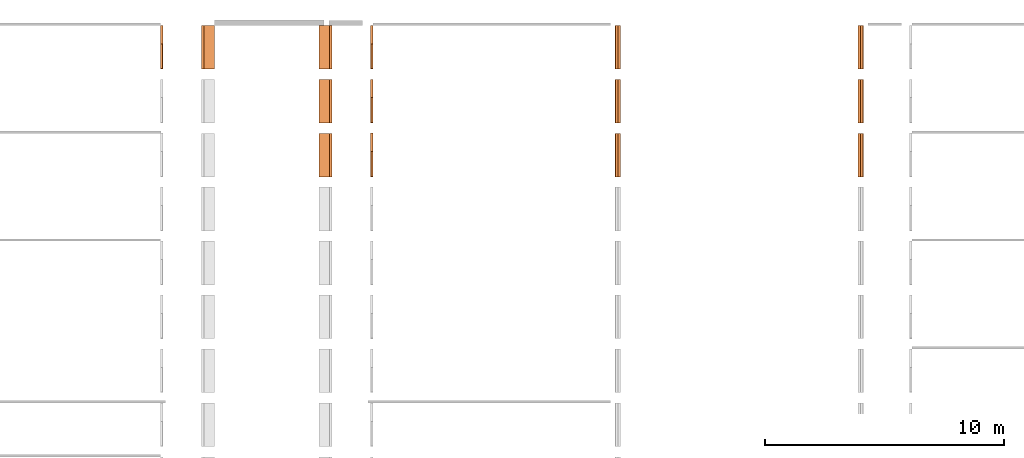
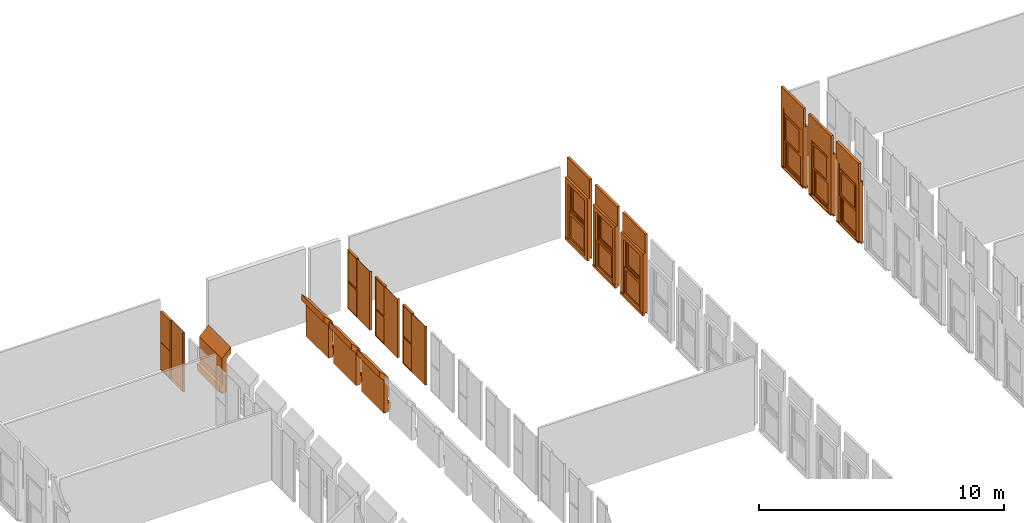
# One storey, part 12 of 13: 14 proxies.
"""IFC2X3 building model written with IfcOpenShell, lengths in millimetres."""

from ifc_helpers import new_model, entity, si_unit, converted_unit, derived_unit, direction, frame, frame_2d, origin, origin_2d_with_axis, place, context, subcontext, project, spatial, polyline, rectangle, outline, extrude, source, transform, mapped, material, material_list, type_object, type_shapes, element, save


model = new_model("IFC2X3")

# Units and contexts
model_context = context("Model", 3, precision=0.01, world=origin(), true_north=direction((6.12303176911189e-17, 1.0)))
body_context = subcontext(model_context, "Body", "Model", "MODEL_VIEW")
ifc_project = project(units=[si_unit("LENGTHUNIT", "METRE", prefix="MILLI"), si_unit("AREAUNIT", "SQUARE_METRE"), si_unit("VOLUMEUNIT", "CUBIC_METRE"), converted_unit("PLANEANGLEUNIT", "DEGREE", entity("IfcRatioMeasure", 0.0174532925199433), si_unit("PLANEANGLEUNIT", "RADIAN"), dimensions=[0, 0, 0, 0, 0, 0, 0]), si_unit("MASSUNIT", "GRAM", prefix="KILO"), derived_unit("MASSDENSITYUNIT", [(si_unit("MASSUNIT", "GRAM", prefix="KILO"), 1), (si_unit("LENGTHUNIT", "METRE"), -3)]), derived_unit("MOMENTOFINERTIAUNIT", [(si_unit("LENGTHUNIT", "METRE"), 4)]), si_unit("TIMEUNIT", "SECOND"), si_unit("FREQUENCYUNIT", "HERTZ"), si_unit("THERMODYNAMICTEMPERATUREUNIT", "DEGREE_CELSIUS"), derived_unit("THERMALTRANSMITTANCEUNIT", [(si_unit("MASSUNIT", "GRAM", prefix="KILO"), 1), (si_unit("THERMODYNAMICTEMPERATUREUNIT", "KELVIN"), -1), (si_unit("TIMEUNIT", "SECOND"), -3)]), derived_unit("VOLUMETRICFLOWRATEUNIT", [(si_unit("LENGTHUNIT", "METRE"), 3), (si_unit("TIMEUNIT", "SECOND"), -1)]), si_unit("ELECTRICCURRENTUNIT", "AMPERE"), si_unit("ELECTRICVOLTAGEUNIT", "VOLT"), si_unit("POWERUNIT", "WATT"), si_unit("FORCEUNIT", "NEWTON", prefix="KILO"), si_unit("ILLUMINANCEUNIT", "LUX"), si_unit("LUMINOUSFLUXUNIT", "LUMEN"), si_unit("LUMINOUSINTENSITYUNIT", "CANDELA"), derived_unit("USERDEFINED", [(si_unit("MASSUNIT", "GRAM", prefix="KILO"), -1), (si_unit("LENGTHUNIT", "METRE"), -2), (si_unit("TIMEUNIT", "SECOND"), 3), (si_unit("LUMINOUSFLUXUNIT", "LUMEN"), 1)]), derived_unit("LINEARVELOCITYUNIT", [(si_unit("LENGTHUNIT", "METRE"), 1), (si_unit("TIMEUNIT", "SECOND"), -1)]), si_unit("PRESSUREUNIT", "PASCAL"), derived_unit("USERDEFINED", [(si_unit("LENGTHUNIT", "METRE"), -2), (si_unit("MASSUNIT", "GRAM", prefix="KILO"), 1), (si_unit("TIMEUNIT", "SECOND"), -2)]), derived_unit("LINEARFORCEUNIT", [(si_unit("MASSUNIT", "GRAM", prefix="KILO"), 1), (si_unit("LENGTHUNIT", "METRE"), 1), (si_unit("TIMEUNIT", "SECOND"), -2), (si_unit("LENGTHUNIT", "METRE"), -1)]), derived_unit("PLANARFORCEUNIT", [(si_unit("MASSUNIT", "GRAM", prefix="KILO"), 1), (si_unit("LENGTHUNIT", "METRE"), 1), (si_unit("TIMEUNIT", "SECOND"), -2), (si_unit("LENGTHUNIT", "METRE"), -2)])], contexts=[model_context])

# Site, building, storey
site_placement = place(None, frame((10627.5135316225, 21939.0796949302, 0.0)))
site = spatial("IfcSite", under=ifc_project, at=site_placement, Name="Default", CompositionType="ELEMENT")
building_placement = place(site_placement, origin())
building = spatial("IfcBuilding", under=site, at=building_placement, CompositionType="ELEMENT")
storey_placement = place(building_placement, frame((0.0, 0.0, 7320.0)))
storey = spatial("IfcBuildingStorey", under=building, at=storey_placement, Name="R+2", CompositionType="ELEMENT", Elevation=7320.0)

# Proxies
ifc_material_1 = material(Name="PVC, Flexible")
ifc_material_2 = material(Name="Glass")
ifc_material_list_1 = material_list([ifc_material_1, ifc_material_2])
building_element_proxy_type_1 = type_object("IfcBuildingElementProxyType", Name="FENETRE.dwg:Fenetre ext 296+95", PredefinedType="NOTDEFINED", material=ifc_material_1)
shared_shape_1 = source(origin(), body_context, "Body", "SweptSolid", [
    extrude(rectangle(XDim=1829.99999999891, YDim=112.500043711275, at=origin_2d_with_axis()), frame((-10.4189092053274, 56.2500218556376, 2960.0), z_axis=(0.0, 0.0, 1.0), x_axis=(-1.0, 0.0, 0.0)), (0.0, 0.0, 1.0), 949.999999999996),
    extrude(outline(polyline([(-68.5678005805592, -14.3879872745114), (-72.4883397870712, -33.9999574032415), (-67.5853472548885, -34.9800922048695), (-63.9024543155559, -16.5569155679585), (44.3087537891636, -16.5569155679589), (54.1101018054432, 32.4730097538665), (40.6268723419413, 35.1683804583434), (40.1368049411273, 32.7168841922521), (51.168538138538, 30.5115808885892), (42.1928709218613, -14.3879872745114), (-68.5678005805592, -14.3879872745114)])), frame((-925.418909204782, 66.917049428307, -47.5499763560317), z_axis=(-1.0, 0.0, 0.0), x_axis=(0.0, 0.980598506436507, -0.196026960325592)), (0.0, 0.0, -1.0), 1829.99999999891),
    extrude(outline(polyline([(-64.667066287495, -56.2500218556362), (66.1666874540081, -56.2500218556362), (66.1666874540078, 56.2500218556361), (-67.6663086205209, 56.2500218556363), (-64.667066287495, -56.2500218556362)])), frame((-925.418909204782, -56.2500218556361, -63.833312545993), z_axis=(1.0, 0.0, 0.0), x_axis=(0.0, 0.0, -1.0)), (0.0, 0.0, 1.0), 1829.99999999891),
    extrude(outline(polyline([(-55.5555555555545, 97.0007159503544), (-55.5555555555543, -5.85738417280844), (-55.5555555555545, -95.357341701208), (-45.5555555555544, -95.3573417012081), (-45.5555555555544, -105.357341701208), (174.444444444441, -105.357341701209), (174.444444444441, 106.642659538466), (-45.5555555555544, 106.642659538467), (-45.5555555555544, 97.0007159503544), (-55.5555555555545, 97.0007159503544)])), frame((849.025535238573, 5.85738417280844, 0.0), z_axis=(0.0, 0.0, -1.0), x_axis=(-1.0, 0.0, 0.0)), (0.0, 0.0, -1.0), 2960.0),
    extrude(rectangle(XDim=199.499957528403, YDim=1369.99999999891, at=origin_2d_with_axis()), frame((-10.4189092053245, 0.250021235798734, 2730.0), z_axis=(0.0, 0.0, 1.0), x_axis=(0.0, 1.0, 0.0)), (0.0, 0.0, 1.0), 230.000000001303),
    extrude(outline(polyline([(-97.0007159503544, -55.5555555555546), (5.85738417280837, -55.5555555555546), (95.357341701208, -55.5555555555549), (95.357341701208, -45.5555555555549), (105.357341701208, -45.5555555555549), (105.357341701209, 174.44444444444), (-106.642659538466, 174.444444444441), (-106.642659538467, -45.5555555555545), (-97.0007159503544, -45.5555555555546), (-97.0007159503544, -55.5555555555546)])), frame((-869.863353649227, 5.85738417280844, 0.0), z_axis=(0.0, 0.0, 1.0), x_axis=(0.0, -1.0, 0.0)), (0.0, 0.0, 1.0), 2960.0),
    extrude(rectangle(XDim=1.0, YDim=1079.99999999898, at=origin_2d_with_axis()), frame((-10.4189092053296, -19.5, 130.0), z_axis=(0.0, 0.0, 1.0), x_axis=(0.0, 1.0, 0.0)), (0.0, 0.0, 1.0), 1120.00000000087),
    extrude(rectangle(XDim=1.0, YDim=1079.99999999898, at=frame_2d((-4.21884749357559e-15, 0.0), x_axis=(1.0, 0.0))), frame((-10.4189092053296, -30.5, 130.0), z_axis=(0.0, 0.0, 1.0), x_axis=(0.0, 1.0, 0.0)), (0.0, 0.0, 1.0), 1120.00000000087),
    extrude(rectangle(XDim=1.0, YDim=1079.99999999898, at=frame_2d((-4.21884749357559e-15, 0.0), x_axis=(1.0, 0.0))), frame((-10.4189092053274, 69.5, 1465.0), z_axis=(0.0, 0.0, 1.0), x_axis=(0.0, 1.0, 0.0)), (0.0, 0.0, 1.0), 1120.0),
    extrude(rectangle(XDim=0.999999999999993, YDim=1079.99999999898, at=frame_2d((-8.46545056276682e-15, 0.0), x_axis=(1.0, 0.0))), frame((-10.4189092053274, 80.5, 1465.0), z_axis=(0.0, 0.0, 1.0), x_axis=(0.0, 1.0, 0.0)), (0.0, 0.0, 1.0), 1120.00000000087),
    extrude(outline(polyline([(-685.0, -1365.0), (0.0, -1365.0), (685.0, -1365.0), (685.0, 1365.0), (0.0, 1365.0), (-685.0, 1365.0), (-685.0, -1365.0)]), holes=[polyline([(-640.0, -1320.0), (-640.0, -45.0), (0.0, -45.0), (640.0, -45.0), (640.0, -1320.0), (0.0, -1320.0), (-640.0, -1320.0)]), polyline([(-640.0, 40.0), (-640.0, 1315.0), (0.0, 1315.0), (640.0, 1315.0), (640.0, 40.0), (0.0, 40.0), (-640.0, 40.0)])]), frame((-10.4189092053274, 0.0, 1365.0), z_axis=(0.0, 1.0, 0.0), x_axis=(1.0, 0.0, 0.0)), (0.0, 0.0, 1.0), 50.0),
    extrude(outline(polyline([(-655.0, -667.500000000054), (655.0, -667.500000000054), (655.0, 667.500000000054), (-655.0, 667.500000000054), (-655.0, -667.500000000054)]), holes=[polyline([(-540.0, 552.500000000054), (540.0, 552.500000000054), (540.0, -567.500000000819), (-540.0, -567.500000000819), (-540.0, 552.500000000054)])]), frame((-10.4189092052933, -50.0, 697.500000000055), z_axis=(0.0, 1.0, 0.0), x_axis=(-1.0, 0.0, 0.0)), (0.0, 0.0, 1.0), 50.0),
    extrude(outline(polyline([(-655.0, -667.500000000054), (655.0, -667.500000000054), (655.0, 667.500000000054), (-655.0, 667.500000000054), (-655.0, -667.500000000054)]), holes=[polyline([(-540.0, 552.500000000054), (540.0, 552.500000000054), (540.0, -567.500000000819), (-540.0, -567.500000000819), (-540.0, 552.500000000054)])]), frame((-10.4189092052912, 50.0, 2032.50000000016), z_axis=(0.0, 1.0, 0.0), x_axis=(-1.0, 0.0, 0.0)), (0.0, 0.0, 1.0), 50.0),
])
type_shapes(building_element_proxy_type_1, [shared_shape_1])
proxy_1_placement = place(storey_placement, frame((51473.0982174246, 15361.3392142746, 0.0), z_axis=(0.0, 0.0, 1.0), x_axis=(0.0, 1.0, 0.0)))
element("IfcBuildingElementProxy", 1, at=proxy_1_placement, inside=storey, type_object=building_element_proxy_type_1, material=ifc_material_list_1, Name="FENETRE.dwg:Fenetre ext 296+95", ObjectType="FENETRE.dwg:Fenetre ext 296+95", context=body_context, shape_type="MappedRepresentation", body=[
    mapped(shared_shape_1, transform((0.0, 0.0, 0.0), scale=1.0)),
])
ifc_material_list_2 = material_list([ifc_material_1, ifc_material_2])
proxy_2_placement = place(storey_placement, frame((51473.0982174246, 13101.3392142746, 0.0), z_axis=(0.0, 0.0, 1.0), x_axis=(0.0, 1.0, 0.0)))
element("IfcBuildingElementProxy", 2, at=proxy_2_placement, inside=storey, type_object=building_element_proxy_type_1, material=ifc_material_list_2, Name="FENETRE.dwg:Fenetre ext 296+95", ObjectType="FENETRE.dwg:Fenetre ext 296+95", context=body_context, shape_type="MappedRepresentation", body=[
    mapped(shared_shape_1, transform((0.0, 0.0, 0.0), scale=1.0)),
])
ifc_material_list_3 = material_list([ifc_material_1, ifc_material_2])
proxy_3_placement = place(storey_placement, frame((51473.0982174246, 10841.3392142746, 0.0), z_axis=(0.0, 0.0, 1.0), x_axis=(0.0, 1.0, 0.0)))
element("IfcBuildingElementProxy", 3, at=proxy_3_placement, inside=storey, type_object=building_element_proxy_type_1, material=ifc_material_list_3, Name="FENETRE.dwg:Fenetre ext 296+95", ObjectType="FENETRE.dwg:Fenetre ext 296+95", context=body_context, shape_type="MappedRepresentation", body=[
    mapped(shared_shape_1, transform((0.0, 0.0, 0.0), scale=1.0)),
])
ifc_material_list_4 = material_list([ifc_material_1, ifc_material_2])
building_element_proxy_type_2 = type_object("IfcBuildingElementProxyType", Name="FENETRE.dwg:Fenetre ext 296+95", PredefinedType="NOTDEFINED", material=ifc_material_1)
shared_shape_2 = source(origin(), body_context, "Body", "SweptSolid", [
    extrude(rectangle(XDim=112.500043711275, YDim=1829.99999999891, at=origin_2d_with_axis()), frame((-10.4189092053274, -56.2500218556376, 2960.0), z_axis=(0.0, 0.0, 1.0), x_axis=(0.0, 1.0, 0.0)), (0.0, 0.0, 1.0), 949.999999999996),
    extrude(outline(polyline([(27.5499763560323, -64.4170494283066), (47.5499763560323, -64.4170494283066), (47.5499763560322, -59.4170494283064), (28.7622905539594, -59.4170494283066), (7.54997635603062, 46.6946996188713), (-42.4500236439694, 46.6946996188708), (-42.4500236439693, 32.9446996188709), (-39.9500236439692, 32.9446996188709), (-39.9500236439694, 44.1946996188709), (5.83789859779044, 44.1946996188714), (27.5499763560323, -64.4170494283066)])), frame((-925.418909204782, -66.917049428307, -47.5499763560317), z_axis=(1.0, 0.0, 0.0), x_axis=(0.0, 0.0, 1.0)), (0.0, 0.0, 1.0), 1829.99999999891),
    extrude(outline(polyline([(-54.506636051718, -66.1431859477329), (58.0333803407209, -66.1431859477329), (54.4666704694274, 67.6422744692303), (-57.9934147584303, 64.6440974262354), (-54.506636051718, -66.1431859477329)])), frame((-925.418909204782, 56.2500218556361, -63.833312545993), z_axis=(1.0, 0.0, 0.0), x_axis=(0.0, -0.999644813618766, 0.0266504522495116)), (0.0, 0.0, 1.0), 1829.99999999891),
    extrude(outline(polyline([(-97.0007159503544, -55.5555555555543), (5.85738417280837, -55.5555555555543), (95.357341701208, -55.5555555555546), (95.357341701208, -45.5555555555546), (105.357341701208, -45.5555555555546), (105.357341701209, 174.444444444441), (-106.642659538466, 174.444444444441), (-106.642659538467, -45.5555555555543), (-97.0007159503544, -45.5555555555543), (-97.0007159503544, -55.5555555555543)])), frame((849.025535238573, -5.85738417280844, 0.0), z_axis=(0.0, 0.0, 1.0), x_axis=(0.0, 1.0, 0.0)), (0.0, 0.0, 1.0), 2960.0),
    extrude(rectangle(XDim=1369.99999999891, YDim=199.499957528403, at=origin_2d_with_axis()), frame((-10.4189092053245, -0.250021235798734, 2730.0), z_axis=(0.0, 0.0, 1.0), x_axis=(-1.0, 0.0, 0.0)), (0.0, 0.0, 1.0), 230.000000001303),
    extrude(outline(polyline([(-55.5555555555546, 97.0007159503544), (-55.5555555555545, -5.85738417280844), (-55.5555555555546, -95.357341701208), (-45.5555555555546, -95.3573417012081), (-45.5555555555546, -105.357341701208), (174.444444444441, -105.357341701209), (174.444444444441, 106.642659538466), (-45.5555555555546, 106.642659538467), (-45.5555555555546, 97.0007159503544), (-55.5555555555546, 97.0007159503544)])), frame((-869.863353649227, -5.85738417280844, 0.0), z_axis=(0.0, 0.0, -1.0), x_axis=(1.0, 0.0, 0.0)), (0.0, 0.0, -1.0), 2960.0),
    extrude(rectangle(XDim=1079.99999999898, YDim=1.0, at=origin_2d_with_axis()), frame((-10.4189092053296, 19.5, 130.0), z_axis=(0.0, 0.0, 1.0), x_axis=(-1.0, 0.0, 0.0)), (0.0, 0.0, 1.0), 1120.00000000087),
    extrude(rectangle(XDim=1079.99999999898, YDim=1.0, at=origin_2d_with_axis()), frame((-10.4189092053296, 30.5, 130.0), z_axis=(0.0, 0.0, 1.0), x_axis=(-1.0, 0.0, 0.0)), (0.0, 0.0, 1.0), 1120.00000000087),
    extrude(rectangle(XDim=1079.99999999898, YDim=1.0, at=frame_2d((0.0, 4.21884749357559e-15), x_axis=(1.0, 0.0))), frame((-10.4189092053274, -69.5, 1465.0), z_axis=(0.0, 0.0, 1.0), x_axis=(-1.0, 0.0, 0.0)), (0.0, 0.0, 1.0), 1120.0),
    extrude(rectangle(XDim=1079.99999999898, YDim=0.999999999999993, at=frame_2d((0.0, -8.46545056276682e-15), x_axis=(1.0, 0.0))), frame((-10.4189092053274, -80.5, 1465.0), z_axis=(0.0, 0.0, 1.0), x_axis=(-1.0, 0.0, 0.0)), (0.0, 0.0, 1.0), 1120.00000000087),
    extrude(outline(polyline([(-685.0, -1365.0), (0.0, -1365.0), (685.0, -1365.0), (685.0, 1365.0), (0.0, 1365.0), (-685.0, 1365.0), (-685.0, -1365.0)]), holes=[polyline([(-640.0, -1320.0), (-640.0, -45.0), (0.0, -45.0), (640.0, -45.0), (640.0, -1320.0), (0.0, -1320.0), (-640.0, -1320.0)]), polyline([(-640.0, 40.0), (-640.0, 1315.0), (0.0, 1315.0), (640.0, 1315.0), (640.0, 40.0), (0.0, 40.0), (-640.0, 40.0)])]), frame((-10.4189092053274, -50.0, 1365.0), z_axis=(0.0, 1.0, 0.0), x_axis=(1.0, 0.0, 0.0)), (0.0, 0.0, 1.0), 50.0),
    extrude(outline(polyline([(-655.0, -667.500000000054), (655.0, -667.500000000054), (655.0, 667.500000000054), (-655.0, 667.500000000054), (-655.0, -667.500000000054)]), holes=[polyline([(-540.0, 552.500000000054), (540.0, 552.500000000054), (540.0, -567.500000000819), (-540.0, -567.500000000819), (-540.0, 552.500000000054)])]), frame((-10.4189092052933, 0.0, 697.500000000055), z_axis=(0.0, 1.0, 0.0), x_axis=(-1.0, 0.0, 0.0)), (0.0, 0.0, 1.0), 50.0),
    extrude(outline(polyline([(-655.0, -667.500000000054), (655.0, -667.500000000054), (655.0, 667.500000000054), (-655.0, 667.500000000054), (-655.0, -667.500000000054)]), holes=[polyline([(-540.0, 552.500000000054), (540.0, 552.500000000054), (540.0, -567.500000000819), (-540.0, -567.500000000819), (-540.0, 552.500000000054)])]), frame((-10.4189092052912, -100.0, 2032.50000000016), z_axis=(0.0, 1.0, 0.0), x_axis=(-1.0, 0.0, 0.0)), (0.0, 0.0, 1.0), 50.0),
])
type_shapes(building_element_proxy_type_2, [shared_shape_2])
proxy_4_placement = place(storey_placement, frame((41291.8747193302, 15361.3392142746, 0.0), z_axis=(0.0, 0.0, 1.0), x_axis=(0.0, 1.0, 0.0)))
element("IfcBuildingElementProxy", 4, at=proxy_4_placement, inside=storey, type_object=building_element_proxy_type_2, material=ifc_material_list_4, Name="FENETRE.dwg:Fenetre ext 296+95", ObjectType="FENETRE.dwg:Fenetre ext 296+95", context=body_context, shape_type="MappedRepresentation", body=[
    mapped(shared_shape_2, transform((0.0, 0.0, 0.0), scale=1.0)),
])
ifc_material_list_5 = material_list([ifc_material_1, ifc_material_2])
proxy_5_placement = place(storey_placement, frame((41291.8747193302, 13101.3392142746, 0.0), z_axis=(0.0, 0.0, 1.0), x_axis=(0.0, 1.0, 0.0)))
element("IfcBuildingElementProxy", 5, at=proxy_5_placement, inside=storey, type_object=building_element_proxy_type_2, material=ifc_material_list_5, Name="FENETRE.dwg:Fenetre ext 296+95", ObjectType="FENETRE.dwg:Fenetre ext 296+95", context=body_context, shape_type="MappedRepresentation", body=[
    mapped(shared_shape_2, transform((0.0, 0.0, 0.0), scale=1.0)),
])
ifc_material_list_6 = material_list([ifc_material_1, ifc_material_2])
proxy_6_placement = place(storey_placement, frame((41291.8747193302, 10841.3392142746, 0.0), z_axis=(0.0, 0.0, 1.0), x_axis=(0.0, 1.0, 0.0)))
element("IfcBuildingElementProxy", 6, at=proxy_6_placement, inside=storey, type_object=building_element_proxy_type_2, material=ifc_material_list_6, Name="FENETRE.dwg:Fenetre ext 296+95", ObjectType="FENETRE.dwg:Fenetre ext 296+95", context=body_context, shape_type="MappedRepresentation", body=[
    mapped(shared_shape_2, transform((0.0, 0.0, 0.0), scale=1.0)),
])
ifc_material_3 = material(Name="Plywood, Sheathing")
ifc_material_list_7 = material_list([ifc_material_3, ifc_material_2])
building_element_proxy_type_3 = type_object("IfcBuildingElementProxyType", Name="Porte noire:Porte noire", PredefinedType="NOTDEFINED", material=ifc_material_3)
shared_shape_3 = source(origin(), body_context, "Body", "SweptSolid", [
    extrude(rectangle(XDim=100.0, YDim=23.0000000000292, at=origin_2d_with_axis()), frame((-950.918997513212, -50.0, 8.73189890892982), z_axis=(0.0, 0.0, 1.0), x_axis=(0.0, 1.0, 0.0)), (0.0, 0.0, 1.0), 2933.34951039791),
    extrude(rectangle(XDim=19.0, YDim=1038.0, at=frame_2d((7.99360577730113e-15, 0.0), x_axis=(1.0, 0.0))), frame((-420.418997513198, -87.5, 43.7318989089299), z_axis=(0.0, 0.0, 1.0), x_axis=(0.0, 1.0, 0.0)), (0.0, 0.0, 1.0), 2898.5),
    extrude(rectangle(XDim=100.0, YDim=1775.0, at=origin_2d_with_axis()), frame((-51.9189975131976, -50.0, 8.73189890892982), z_axis=(0.0, 0.0, 1.0), x_axis=(0.0, 1.0, 0.0)), (0.0, 0.0, 1.0), 35.0000000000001),
    extrude(rectangle(XDim=100.0, YDim=35.0000000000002, at=origin_2d_with_axis()), frame((853.081002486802, -50.0, 8.73189890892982), z_axis=(0.0, 0.0, 1.0), x_axis=(0.0, 1.0, 0.0)), (0.0, 0.0, 1.0), 2898.5),
    extrude(rectangle(XDim=100.0, YDim=740.0, at=origin_2d_with_axis()), frame((500.581002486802, -50.0, 2907.23189890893), z_axis=(0.0, 0.0, 1.0), x_axis=(0.0, 1.0, 0.0)), (0.0, 0.0, 1.0), 35.0000000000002),
    extrude(rectangle(XDim=100.0, YDim=31.9999999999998, at=origin_2d_with_axis()), frame((114.581002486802, -50.0, 43.7318989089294), z_axis=(0.0, 0.0, 1.0), x_axis=(0.0, 1.0, 0.0)), (0.0, 0.0, 1.0), 2898.5),
    extrude(rectangle(XDim=100.0, YDim=705.0, at=origin_2d_with_axis()), frame((483.081002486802, -50.0, 1343.73189890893), z_axis=(0.0, 0.0, 1.0), x_axis=(0.0, 1.0, 0.0)), (0.0, 0.0, 1.0), 55.0),
    extrude(outline(polyline([(-352.5, -650.0), (352.5, -650.0), (352.5, 650.0), (-352.5, 650.0), (-352.5, -650.0)]), holes=[polyline([(342.5, 640.0), (342.5, -640.0), (-342.5, -640.0), (-342.5, 640.0), (342.5, 640.0)])]), frame((483.081002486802, -80.0, 693.73189890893), z_axis=(0.0, 1.0, 0.0), x_axis=(1.0, 0.0, 0.0)), (0.0, 0.0, 1.0), 70.0),
    extrude(outline(polyline([(-754.25, -352.5), (754.25, -352.5), (754.25, 352.5), (-754.25, 352.5), (-754.25, -352.5)]), holes=[polyline([(744.25, 342.5), (744.25, -342.5), (-744.25, -342.5), (-744.25, 342.5), (744.25, 342.5)])]), frame((483.081002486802, -80.0, 2152.98189890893), z_axis=(0.0, 1.0, 0.0), x_axis=(0.0, 0.0, 1.0)), (0.0, 0.0, 1.0), 70.0),
    extrude(outline(polyline([(-640.0, -342.5), (640.0, -342.5), (640.0, 342.5), (-640.0, 342.5), (-640.0, -342.5)]), holes=[polyline([(630.0, 332.5), (630.0, -332.5), (-630.0, -332.5), (-630.0, 332.5), (630.0, 332.5)])]), frame((483.081002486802, -81.0, 693.731898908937), z_axis=(0.0, 1.0, 0.0), x_axis=(0.0, 0.0, 1.0)), (0.0, 0.0, 1.0), 3.99999999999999),
    extrude(outline(polyline([(-744.25, -342.5), (744.25, -342.5), (744.25, 342.5), (-744.25, 342.5), (-744.25, -342.5)]), holes=[polyline([(734.25, 332.5), (734.25, -332.5), (-734.25, -332.5), (-734.25, 332.5), (734.25, 332.5)])]), frame((483.081002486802, -81.0, 2152.98189890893), z_axis=(0.0, 1.0, 0.0), x_axis=(0.0, 0.0, 1.0)), (0.0, 0.0, 1.0), 3.99999999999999),
    extrude(outline(polyline([(-640.0, -342.5), (640.0, -342.5), (640.0, 342.5), (-640.0, 342.5), (-640.0, -342.5)]), holes=[polyline([(630.0, 332.5), (630.0, -332.5), (-630.0, -332.5), (-630.0, 332.5), (630.0, 332.5)])]), frame((483.081002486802, -15.0, 693.782575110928), z_axis=(0.0, 1.0, 0.0), x_axis=(0.0, 0.0, 1.0)), (0.0, 0.0, 1.0), 5.0),
    extrude(outline(polyline([(-744.25, -342.5), (744.25, -342.5), (744.25, 342.5), (-744.25, 342.5), (-744.25, -342.5)]), holes=[polyline([(734.25, 332.5), (734.25, -332.5), (-734.25, -332.5), (-734.25, 332.5), (734.25, 332.5)])]), frame((483.081002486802, -15.0, 2153.03257511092), z_axis=(0.0, 1.0, 0.0), x_axis=(0.0, 0.0, 1.0)), (0.0, 0.0, 1.0), 5.0),
    extrude(rectangle(XDim=2.0, YDim=665.0, at=frame_2d((8.43769498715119e-15, 0.0), x_axis=(1.0, 0.0))), frame((483.081002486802, -79.0, 1418.73189890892), z_axis=(0.0, 0.0, 1.0), x_axis=(0.0, 1.0, 0.0)), (0.0, 0.0, 1.0), 1468.50000000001),
    extrude(rectangle(XDim=2.0, YDim=665.0, at=frame_2d((8.43769498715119e-15, 0.0), x_axis=(1.0, 0.0))), frame((483.081002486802, -79.0, 63.7318989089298), z_axis=(0.0, 0.0, 1.0), x_axis=(0.0, 1.0, 0.0)), (0.0, 0.0, 1.0), 1260.0),
    extrude(rectangle(XDim=2.0, YDim=665.0, at=frame_2d((1.0547118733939e-15, 0.0), x_axis=(1.0, 0.0))), frame((483.081002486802, -13.0, 1418.78257511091), z_axis=(0.0, 0.0, 1.0), x_axis=(0.0, 1.0, 0.0)), (0.0, 0.0, 1.0), 1468.50000000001),
    extrude(rectangle(XDim=2.0, YDim=665.0, at=frame_2d((1.0547118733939e-15, 0.0), x_axis=(1.0, 0.0))), frame((483.081002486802, -13.0, 63.7825751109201), z_axis=(0.0, 0.0, 1.0), x_axis=(0.0, 1.0, 0.0)), (0.0, 0.0, 1.0), 1260.0),
])
type_shapes(building_element_proxy_type_3, [shared_shape_3])
proxy_7_placement = place(storey_placement, frame((22127.8464640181, 15397.3393025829, 0.0), z_axis=(0.0, 0.0, 1.0), x_axis=(0.0, 1.0, 0.0)))
element("IfcBuildingElementProxy", 7, at=proxy_7_placement, inside=storey, type_object=building_element_proxy_type_3, material=ifc_material_list_7, Name="Porte noire:Porte noire", ObjectType="Porte noire:Porte noire", context=body_context, shape_type="MappedRepresentation", body=[
    mapped(shared_shape_3, transform((0.0, 0.0, 0.0), scale=1.0)),
])
ifc_material_list_8 = material_list([ifc_material_3, ifc_material_2])
building_element_proxy_type_4 = type_object("IfcBuildingElementProxyType", Name="Porte noire:Porte noire", PredefinedType="NOTDEFINED", material=ifc_material_3)
shared_shape_4 = source(origin(), body_context, "Body", "SweptSolid", [
    extrude(rectangle(XDim=23.0000000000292, YDim=100.0, at=frame_2d((-1.35891298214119e-13, 0.0), x_axis=(1.0, 0.0))), frame((-950.918997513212, 50.0, 8.73189890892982), z_axis=(0.0, 0.0, 1.0), x_axis=(-1.0, 0.0, 0.0)), (0.0, 0.0, 1.0), 2933.34951039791),
    extrude(rectangle(XDim=1038.0, YDim=19.0, at=frame_2d((0.0, 7.99360577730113e-15), x_axis=(1.0, 0.0))), frame((-420.418997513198, 87.5, 43.7318989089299), z_axis=(0.0, 0.0, 1.0), x_axis=(-1.0, 0.0, 0.0)), (0.0, 0.0, 1.0), 2898.5),
    extrude(rectangle(XDim=1775.0, YDim=100.0, at=origin_2d_with_axis()), frame((-51.9189975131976, 50.0, 8.73189890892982), z_axis=(0.0, 0.0, 1.0), x_axis=(-1.0, 0.0, 0.0)), (0.0, 0.0, 1.0), 35.0000000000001),
    extrude(rectangle(XDim=35.0000000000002, YDim=100.0, at=origin_2d_with_axis()), frame((853.081002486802, 50.0, 8.73189890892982), z_axis=(0.0, 0.0, 1.0), x_axis=(-1.0, 0.0, 0.0)), (0.0, 0.0, 1.0), 2898.5),
    extrude(rectangle(XDim=740.0, YDim=100.0, at=origin_2d_with_axis()), frame((500.581002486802, 50.0, 2907.23189890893), z_axis=(0.0, 0.0, 1.0), x_axis=(-1.0, 0.0, 0.0)), (0.0, 0.0, 1.0), 35.0000000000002),
    extrude(rectangle(XDim=31.9999999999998, YDim=100.0, at=origin_2d_with_axis()), frame((114.581002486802, 50.0, 43.7318989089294), z_axis=(0.0, 0.0, 1.0), x_axis=(-1.0, 0.0, 0.0)), (0.0, 0.0, 1.0), 2898.5),
    extrude(rectangle(XDim=705.0, YDim=100.0, at=origin_2d_with_axis()), frame((483.081002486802, 50.0, 1343.73189890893), z_axis=(0.0, 0.0, 1.0), x_axis=(-1.0, 0.0, 0.0)), (0.0, 0.0, 1.0), 55.0),
    extrude(outline(polyline([(-352.5, -650.0), (352.5, -650.0), (352.5, 650.0), (-352.5, 650.0), (-352.5, -650.0)]), holes=[polyline([(342.5, 640.0), (342.5, -640.0), (-342.5, -640.0), (-342.5, 640.0), (342.5, 640.0)])]), frame((483.081002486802, 10.0, 693.73189890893), z_axis=(0.0, 1.0, 0.0), x_axis=(1.0, 0.0, 0.0)), (0.0, 0.0, 1.0), 70.0),
    extrude(outline(polyline([(-754.25, -352.5), (754.25, -352.5), (754.25, 352.5), (-754.25, 352.5), (-754.25, -352.5)]), holes=[polyline([(744.25, 342.5), (744.25, -342.5), (-744.25, -342.5), (-744.25, 342.5), (744.25, 342.5)])]), frame((483.081002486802, 10.0, 2152.98189890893), z_axis=(0.0, 1.0, 0.0), x_axis=(0.0, 0.0, 1.0)), (0.0, 0.0, 1.0), 70.0),
    extrude(outline(polyline([(-640.0, -342.5), (640.0, -342.5), (640.0, 342.5), (-640.0, 342.5), (-640.0, -342.5)]), holes=[polyline([(630.0, 332.5), (630.0, -332.5), (-630.0, -332.5), (-630.0, 332.5), (630.0, 332.5)])]), frame((483.081002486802, 77.0, 693.731898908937), z_axis=(0.0, 1.0, 0.0), x_axis=(0.0, 0.0, 1.0)), (0.0, 0.0, 1.0), 3.99999999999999),
    extrude(outline(polyline([(-744.25, -342.5), (744.25, -342.5), (744.25, 342.5), (-744.25, 342.5), (-744.25, -342.5)]), holes=[polyline([(734.25, 332.5), (734.25, -332.5), (-734.25, -332.5), (-734.25, 332.5), (734.25, 332.5)])]), frame((483.081002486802, 77.0, 2152.98189890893), z_axis=(0.0, 1.0, 0.0), x_axis=(0.0, 0.0, 1.0)), (0.0, 0.0, 1.0), 3.99999999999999),
    extrude(outline(polyline([(-640.0, -342.5), (640.0, -342.5), (640.0, 342.5), (-640.0, 342.5), (-640.0, -342.5)]), holes=[polyline([(630.0, 332.5), (630.0, -332.5), (-630.0, -332.5), (-630.0, 332.5), (630.0, 332.5)])]), frame((483.081002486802, 10.0, 693.782575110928), z_axis=(0.0, 1.0, 0.0), x_axis=(0.0, 0.0, 1.0)), (0.0, 0.0, 1.0), 5.0),
    extrude(outline(polyline([(-744.25, -342.5), (744.25, -342.5), (744.25, 342.5), (-744.25, 342.5), (-744.25, -342.5)]), holes=[polyline([(734.25, 332.5), (734.25, -332.5), (-734.25, -332.5), (-734.25, 332.5), (734.25, 332.5)])]), frame((483.081002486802, 10.0, 2153.03257511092), z_axis=(0.0, 1.0, 0.0), x_axis=(0.0, 0.0, 1.0)), (0.0, 0.0, 1.0), 5.0),
    extrude(rectangle(XDim=665.0, YDim=2.0, at=frame_2d((0.0, 8.43769498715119e-15), x_axis=(1.0, 0.0))), frame((483.081002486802, 79.0, 1418.73189890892), z_axis=(0.0, 0.0, 1.0), x_axis=(-1.0, 0.0, 0.0)), (0.0, 0.0, 1.0), 1468.50000000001),
    extrude(rectangle(XDim=665.0, YDim=2.0, at=frame_2d((0.0, 8.43769498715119e-15), x_axis=(1.0, 0.0))), frame((483.081002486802, 79.0, 63.7318989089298), z_axis=(0.0, 0.0, 1.0), x_axis=(-1.0, 0.0, 0.0)), (0.0, 0.0, 1.0), 1260.0),
    extrude(rectangle(XDim=665.0, YDim=2.0, at=frame_2d((0.0, 1.0547118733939e-15), x_axis=(1.0, 0.0))), frame((483.081002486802, 13.0, 1418.78257511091), z_axis=(0.0, 0.0, 1.0), x_axis=(-1.0, 0.0, 0.0)), (0.0, 0.0, 1.0), 1468.50000000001),
    extrude(rectangle(XDim=665.0, YDim=2.0, at=frame_2d((0.0, 1.0547118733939e-15), x_axis=(1.0, 0.0))), frame((483.081002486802, 13.0, 63.7825751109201), z_axis=(0.0, 0.0, 1.0), x_axis=(-1.0, 0.0, 0.0)), (0.0, 0.0, 1.0), 1260.0),
])
type_shapes(building_element_proxy_type_4, [shared_shape_4])
proxy_8_placement = place(storey_placement, frame((31027.1264727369, 10877.3393025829, 0.0), z_axis=(0.0, 0.0, 1.0), x_axis=(0.0, 1.0, 0.0)))
element("IfcBuildingElementProxy", 8, at=proxy_8_placement, inside=storey, type_object=building_element_proxy_type_4, material=ifc_material_list_8, Name="Porte noire:Porte noire", ObjectType="Porte noire:Porte noire", context=body_context, shape_type="MappedRepresentation", body=[
    mapped(shared_shape_4, transform((0.0, 0.0, 0.0), scale=1.0)),
])
ifc_material_list_9 = material_list([ifc_material_3, ifc_material_2])
proxy_9_placement = place(storey_placement, frame((31027.1264727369, 13137.3393025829, 0.0), z_axis=(0.0, 0.0, 1.0), x_axis=(0.0, 1.0, 0.0)))
element("IfcBuildingElementProxy", 9, at=proxy_9_placement, inside=storey, type_object=building_element_proxy_type_4, material=ifc_material_list_9, Name="Porte noire:Porte noire", ObjectType="Porte noire:Porte noire", context=body_context, shape_type="MappedRepresentation", body=[
    mapped(shared_shape_4, transform((0.0, 0.0, 0.0), scale=1.0)),
])
ifc_material_list_10 = material_list([ifc_material_3, ifc_material_2])
proxy_10_placement = place(storey_placement, frame((31027.1264727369, 15397.3393025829, 0.0), z_axis=(0.0, 0.0, 1.0), x_axis=(0.0, 1.0, 0.0)))
element("IfcBuildingElementProxy", 10, at=proxy_10_placement, inside=storey, type_object=building_element_proxy_type_4, material=ifc_material_list_10, Name="Porte noire:Porte noire", ObjectType="Porte noire:Porte noire", context=body_context, shape_type="MappedRepresentation", body=[
    mapped(shared_shape_4, transform((0.0, 0.0, 0.0), scale=1.0)),
])
ifc_material_4 = material(Name="Concrete, Precast Smooth, Light Grey")
building_element_proxy_type_5 = type_object("IfcBuildingElementProxyType", Name="Panneaux mediateque:Panneaux mediateque", PredefinedType="NOTDEFINED", material=ifc_material_4)
shared_shape_5 = source(origin(), body_context, "Body", "SweptSolid", [
    extrude(outline(polyline([(-998.434688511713, -508.899393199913), (-1213.39514999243, -723.859854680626), (-605.283318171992, -723.859854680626), (115.965598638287, -2.61093787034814), (101.823463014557, 11.5311977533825), (296.277827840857, 205.985562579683), (310.419963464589, 191.843426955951), (395.272229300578, 106.991161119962), (639.224068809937, 350.943000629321), (554.371802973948, 435.79526646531), (625.082466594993, 506.505930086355), (473.054508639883, 658.533888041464), (-694.378772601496, -508.899393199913), (-998.434688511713, -508.899393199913)])), frame((0.0, -203.845498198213, 800.153828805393), z_axis=(-1.0, 0.0, 0.0), x_axis=(0.0, 0.707106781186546, -0.707106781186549)), (0.0, 0.0, -1.0), 1830.0),
])
type_shapes(building_element_proxy_type_5, [shared_shape_5])
proxy_11_placement = place(storey_placement, frame((23837.4872432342, 14435.9203050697, -700.0), z_axis=(0.0, 0.0, 1.0), x_axis=(0.0, 1.0, 0.0)))
element("IfcBuildingElementProxy", 11, at=proxy_11_placement, inside=storey, type_object=building_element_proxy_type_5, material=ifc_material_4, Name="Panneaux mediateque:Panneaux mediateque", ObjectType="Panneaux mediateque:Panneaux mediateque", context=body_context, shape_type="MappedRepresentation", body=[
    mapped(shared_shape_5, transform((0.0, 0.0, 0.0), scale=1.0)),
])
building_element_proxy_type_6 = type_object("IfcBuildingElementProxyType", Name="Panneaux mediateque:Panneaux mediateque", PredefinedType="NOTDEFINED", material=ifc_material_4)
shared_shape_6 = source(origin(), body_context, "Body", "SweptSolid", [
    extrude(outline(polyline([(1065.84615069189, -346.153726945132), (1369.84615069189, -346.153726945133), (939.84615069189, 83.8462730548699), (-80.1538493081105, 83.8462730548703), (-80.1538493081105, 63.8462730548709), (-355.15384930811, 63.8462730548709), (-355.15384930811, 83.8462730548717), (-355.15384930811, 203.845498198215), (-700.153849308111, 203.845498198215), (-700.153849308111, 83.8462730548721), (-800.153828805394, 83.8462730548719), (-800.153828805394, -131.153726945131), (850.846150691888, -131.153726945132), (1065.84615069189, -346.153726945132)])), frame((0.0, 203.845498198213, 800.153828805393), z_axis=(1.0, 0.0, 0.0), x_axis=(0.0, 0.0, 1.0)), (0.0, 0.0, 1.0), 1830.0),
])
type_shapes(building_element_proxy_type_6, [shared_shape_6])
for number, where, z_axis, x_axis, name in (
    (12, (29317.4856935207, 14435.9203050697, -700.0), (0.0, 0.0, 1.0), (0.0, 1.0, 0.0), "Panneaux mediateque:Panneaux mediateque"),
    (13, (29317.4856935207, 12175.9203050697, -700.0), (0.0, 0.0, 1.0), (0.0, 1.0, 0.0), "Panneaux mediateque:Panneaux mediateque"),
    (14, (29317.4856935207, 9915.92030506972, -700.0), (0.0, 0.0, 1.0), (0.0, 1.0, 0.0), "Panneaux mediateque:Panneaux mediateque"),
):
    element("IfcBuildingElementProxy", number, at=place(storey_placement, frame(where, z_axis=z_axis, x_axis=x_axis)), inside=storey, type_object=building_element_proxy_type_6, material=ifc_material_4, Name=name, ObjectType="Panneaux mediateque:Panneaux mediateque", context=body_context, shape_type="MappedRepresentation", body=[
        mapped(shared_shape_6, transform((0.0, 0.0, 0.0), scale=1.0)),
    ])

save(model, "model.ifc")
